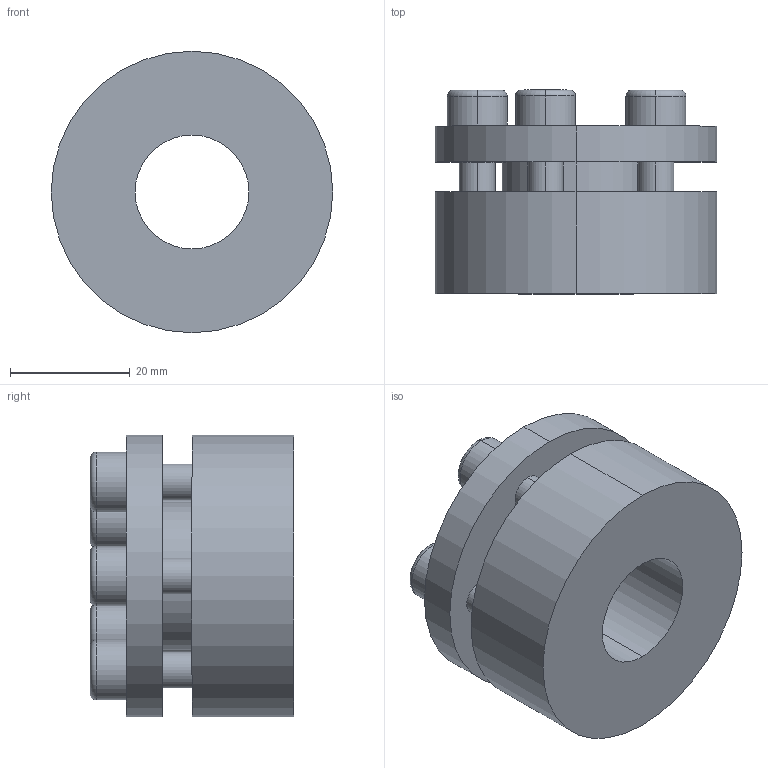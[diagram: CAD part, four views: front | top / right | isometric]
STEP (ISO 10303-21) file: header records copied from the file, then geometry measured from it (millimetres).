
FILE_DESCRIPTION (( 'STEP AP203' ), '1' );
FILE_NAME ('PL-H3 19-47.STEP', '2021-10-23T01:05:58', ( '' ), ( '' ), 'SwSTEP 2.0', 'SolidWorks 2018', '' );
FILE_SCHEMA (( 'CONFIG_CONTROL_DESIGN' ));
Length unit declared in the file: millimetre
Products named in the file (1): PL-H3 19-47
Bounding box: 47 x 34 x 47 mm (x, y, z)
Volume: 37047.5 mm3; surface area: 12197.1 mm2
Topology: 1 solids, 1 shells, 82 faces, 194 edges, 126 vertices
Faces by surface type: plane 44, cylinder 28, torus 10
Entity records: 2475 total; most frequent: DIRECTION 436, CARTESIAN_POINT 403, ORIENTED_EDGE 388, EDGE_CURVE 194, AXIS2_PLACEMENT_3D 159, VERTEX_POINT 126, LINE 118, VECTOR 118
